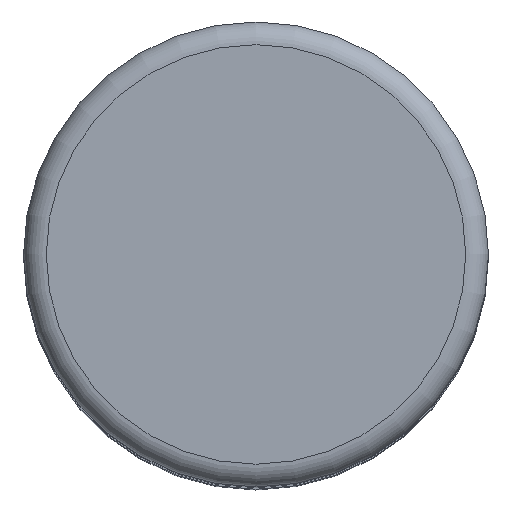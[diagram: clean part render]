
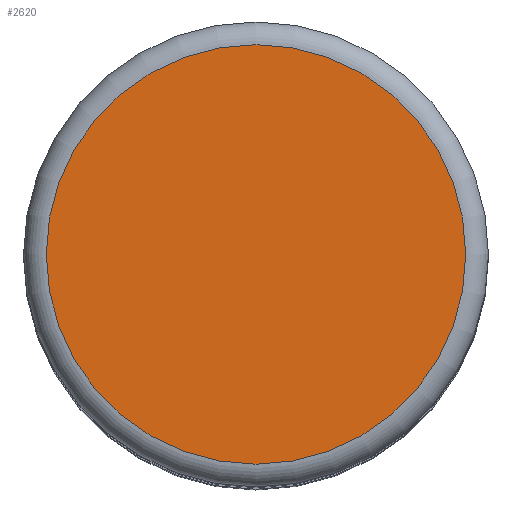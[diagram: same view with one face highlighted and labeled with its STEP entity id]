
A CAD part, top view. The second image highlights one B-rep face of the part: STEP entity #2620.
In plain terms, the highlighted planar face has unit normal (0, 0, 1).
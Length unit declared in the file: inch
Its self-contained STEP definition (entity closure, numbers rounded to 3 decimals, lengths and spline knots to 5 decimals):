
#249=PLANE('',#2796);
#315=FACE_OUTER_BOUND('',#464,.T.);
#464=EDGE_LOOP('',(#1782));
#997=CIRCLE('',#2793,0.09236);
#1081=VERTEX_POINT('',#3489);
#1359=EDGE_CURVE('',#1081,#1081,#997,.T.);
#1782=ORIENTED_EDGE('',*,*,#1359,.F.);
#2620=ADVANCED_FACE('',(#315),#249,.T.);
#2793=AXIS2_PLACEMENT_3D('',#3491,#2970,#2971);
#2796=AXIS2_PLACEMENT_3D('',#3496,#2977,#2978);
#2970=DIRECTION('center_axis',(0.,0.,-1.));
#2971=DIRECTION('ref_axis',(-1.,0.,0.));
#2977=DIRECTION('center_axis',(0.,0.,1.));
#2978=DIRECTION('ref_axis',(1.,0.,0.));
#3489=CARTESIAN_POINT('',(0.09236,0.,0.3937));
#3491=CARTESIAN_POINT('Origin',(0.,0.,0.3937));
#3496=CARTESIAN_POINT('Origin',(0.,0.,0.3937));
